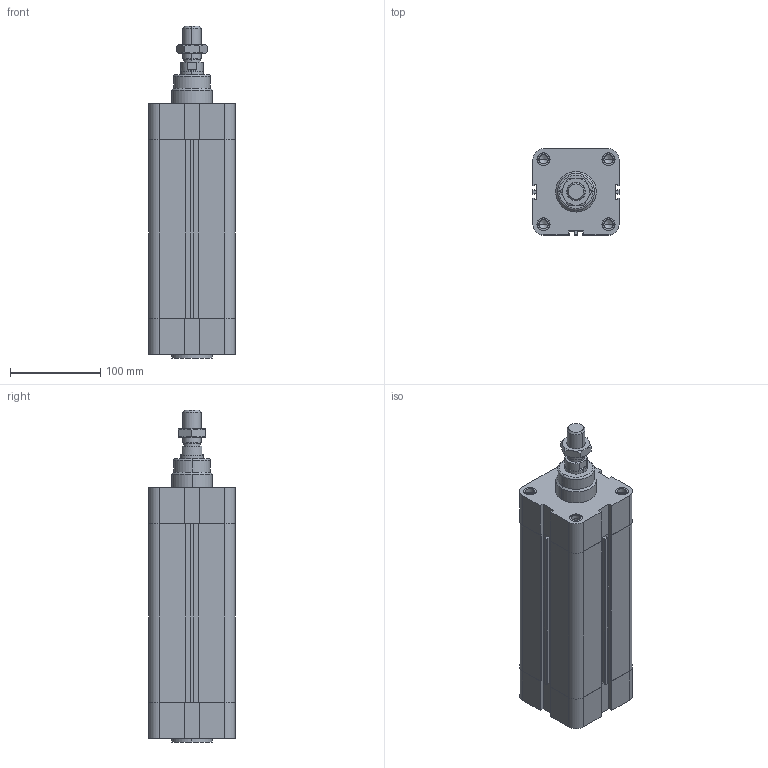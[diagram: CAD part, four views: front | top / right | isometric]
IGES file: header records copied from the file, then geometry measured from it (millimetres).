
Global section: file name: No Iges File Name specified; native system: Autodesk Inventor 2010; preprocessor: AutoDesk Inventor Iges Exporter R2010; author: rivolro1; date: 20090707.103423; units: millimetre
Bounding box: 95.5 x 95.5 x 368 mm (x, y, z)
Volume: 1823966.8 mm3; surface area: 275581.7 mm2
Topology: 5 solids, 5 shells, 290 faces, 694 edges, 440 vertices
Faces by surface type: plane 120, bspline 74, cylinder 40, revolution 34, cone 20, torus 2
